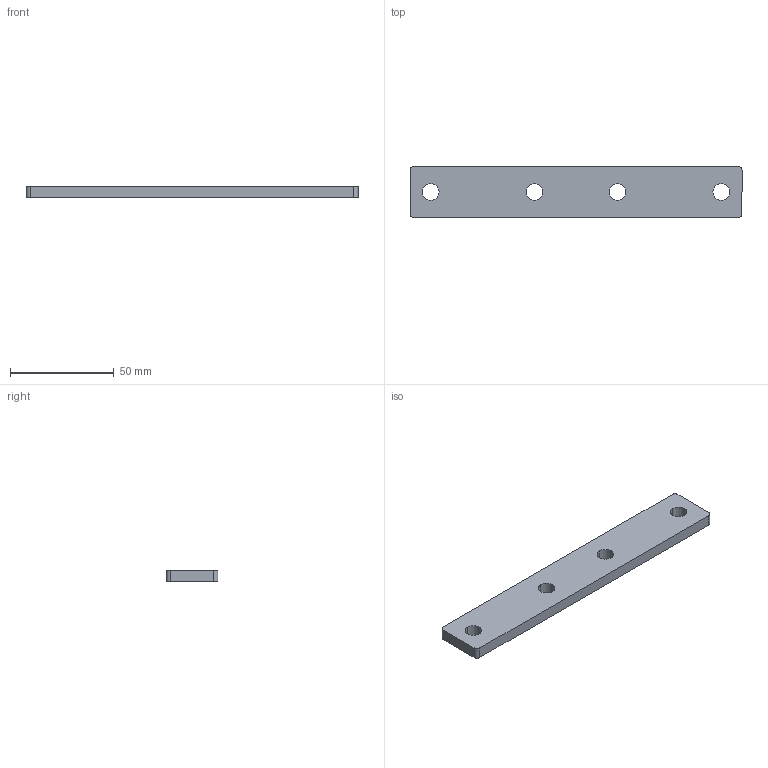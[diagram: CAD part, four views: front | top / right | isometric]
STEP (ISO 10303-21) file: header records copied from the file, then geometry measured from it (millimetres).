
FILE_DESCRIPTION (( 'STEP AP214' ), '1' );
FILE_NAME ('FACS 25x160.step', '2017-04-05T07:36:38', ( '' ), ( '' ), 'SwSTEP 2.0', 'SolidWorks 2015', '' );
FILE_SCHEMA (( 'AUTOMOTIVE_DESIGN' ));
Length unit declared in the file: millimetre
Products named in the file (1): FACS 25x160
Bounding box: 160 x 25 x 5.6 mm (x, y, z)
Volume: 21254.8 mm3; surface area: 10206.8 mm2
Topology: 1 solids, 1 shells, 18 faces, 48 edges, 32 vertices
Faces by surface type: cylinder 12, plane 6
Entity records: 626 total; most frequent: DIRECTION 110, CARTESIAN_POINT 99, ORIENTED_EDGE 96, EDGE_CURVE 48, AXIS2_PLACEMENT_3D 43, VERTEX_POINT 32, EDGE_LOOP 26, CIRCLE 24
